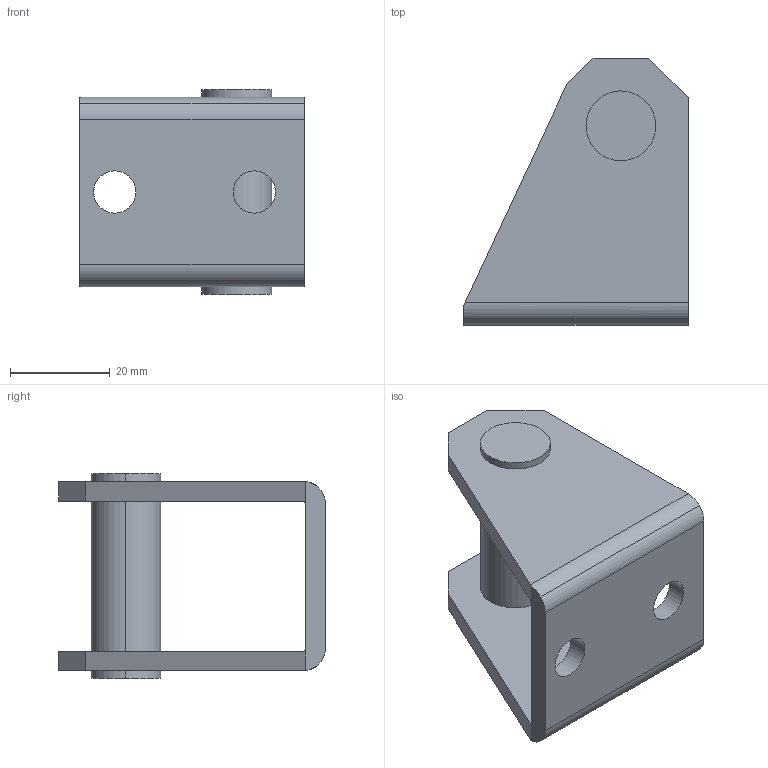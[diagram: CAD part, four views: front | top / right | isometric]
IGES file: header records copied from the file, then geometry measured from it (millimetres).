
Global section: file name: No Iges File Name specified; native system: AutoDesk Inventor R6.0; preprocessor: AutoDesk Inventor Iges Exporter R6.0; author: No Author specified; organization: No Organization specified; date: 20030408.082114; units: millimetre
Bounding box: 45 x 53.5 x 41 mm (x, y, z)
Volume: 23873.1 mm3; surface area: 12072.4 mm2
Topology: 1 solids, 1 shells, 36 faces, 94 edges, 62 vertices
Faces by surface type: plane 18, cylinder 10, bspline 4, revolution 4
